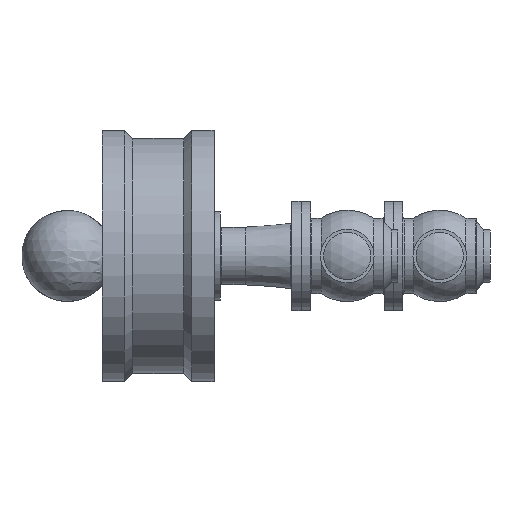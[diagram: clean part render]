
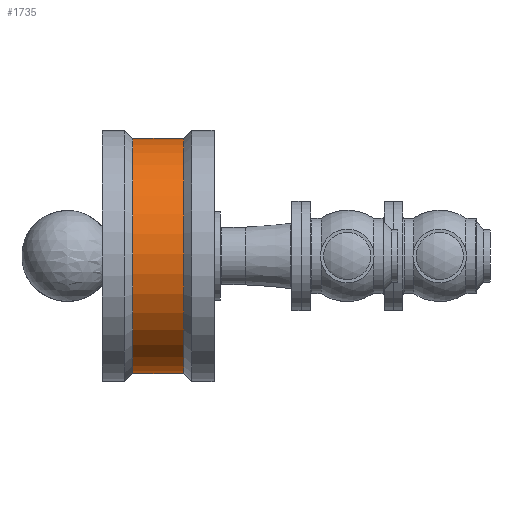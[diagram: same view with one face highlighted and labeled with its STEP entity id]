
A CAD part, left-side view. The second image highlights one B-rep face of the part: STEP entity #1735.
In plain terms, the highlighted cylindrical face has radius 187 mm (diameter 374 mm), a full revolution.
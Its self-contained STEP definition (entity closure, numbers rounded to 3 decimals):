
#257=FACE_OUTER_BOUND('',#358,.T.);
#358=EDGE_LOOP('',(#1244,#1245,#1246,#1247,#1248,#1249));
#471=LINE('',#3091,#514);
#514=VECTOR('',#2401,187.);
#574=CIRCLE('',#2014,187.);
#575=CIRCLE('',#2015,187.);
#578=CIRCLE('',#2019,187.);
#579=CIRCLE('',#2020,187.);
#769=VERTEX_POINT('',#3077);
#770=VERTEX_POINT('',#3078);
#773=VERTEX_POINT('',#3087);
#774=VERTEX_POINT('',#3088);
#962=EDGE_CURVE('',#769,#770,#574,.T.);
#963=EDGE_CURVE('',#770,#769,#575,.T.);
#967=EDGE_CURVE('',#773,#774,#578,.T.);
#968=EDGE_CURVE('',#774,#773,#579,.T.);
#969=EDGE_CURVE('',#774,#770,#471,.T.);
#1244=ORIENTED_EDGE('',*,*,#967,.F.);
#1245=ORIENTED_EDGE('',*,*,#968,.F.);
#1246=ORIENTED_EDGE('',*,*,#969,.T.);
#1247=ORIENTED_EDGE('',*,*,#963,.T.);
#1248=ORIENTED_EDGE('',*,*,#962,.T.);
#1249=ORIENTED_EDGE('',*,*,#969,.F.);
#1689=CYLINDRICAL_SURFACE('',#2018,187.);
#1735=ADVANCED_FACE('',(#257),#1689,.T.);
#2014=AXIS2_PLACEMENT_3D('',#3079,#2386,#2387);
#2015=AXIS2_PLACEMENT_3D('',#3080,#2388,#2389);
#2018=AXIS2_PLACEMENT_3D('',#3086,#2395,#2396);
#2019=AXIS2_PLACEMENT_3D('',#3089,#2397,#2398);
#2020=AXIS2_PLACEMENT_3D('',#3090,#2399,#2400);
#2386=DIRECTION('center_axis',(0.,0.,1.));
#2387=DIRECTION('ref_axis',(1.,0.,0.));
#2388=DIRECTION('center_axis',(0.,0.,1.));
#2389=DIRECTION('ref_axis',(1.,0.,0.));
#2395=DIRECTION('center_axis',(0.,0.,1.));
#2396=DIRECTION('ref_axis',(1.,0.,0.));
#2397=DIRECTION('center_axis',(0.,0.,1.));
#2398=DIRECTION('ref_axis',(1.,0.,0.));
#2399=DIRECTION('center_axis',(0.,0.,1.));
#2400=DIRECTION('ref_axis',(1.,0.,0.));
#2401=DIRECTION('',(0.,0.,-1.));
#3077=CARTESIAN_POINT('',(187.,0.,51.5));
#3078=CARTESIAN_POINT('',(-187.,0.,51.5));
#3079=CARTESIAN_POINT('Origin',(0.,0.,51.5));
#3080=CARTESIAN_POINT('Origin',(0.,0.,51.5));
#3086=CARTESIAN_POINT('Origin',(0.,0.,92.));
#3087=CARTESIAN_POINT('',(187.,0.,132.5));
#3088=CARTESIAN_POINT('',(-187.,0.,132.5));
#3089=CARTESIAN_POINT('Origin',(0.,0.,132.5));
#3090=CARTESIAN_POINT('Origin',(0.,0.,132.5));
#3091=CARTESIAN_POINT('',(-187.,0.,92.));
